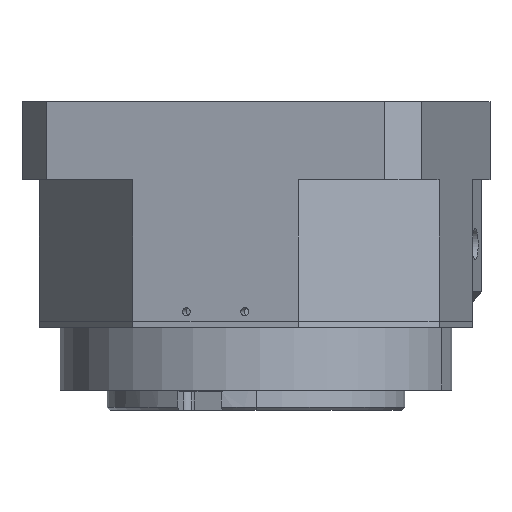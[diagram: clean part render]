
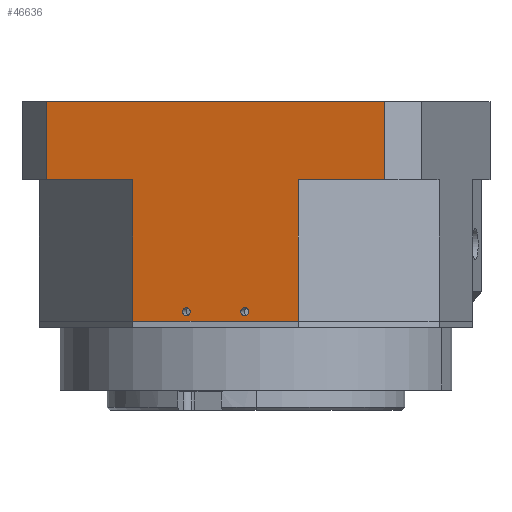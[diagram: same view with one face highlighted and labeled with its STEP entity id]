
A CAD part, left-side view. The second image highlights one B-rep face of the part: STEP entity #46636.
In plain terms, the highlighted planar face has unit normal (-0.98, 0.198, 0) as drawn and (0, 1, 0) by its records, which use the part's own axes.
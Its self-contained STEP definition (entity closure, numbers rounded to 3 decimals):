
#1364 = CARTESIAN_POINT ( 'NONE',  ( 26.924, 66.5, 70. ) ) ;
#1923 = EDGE_CURVE ( 'NONE', #29435, #42534, #42153, .T. ) ;
#2552 = VECTOR ( 'NONE', #33194, 1000. ) ;
#3884 = VERTEX_POINT ( 'NONE', #9012 ) ;
#5197 = DIRECTION ( 'NONE',  ( 0., 1., 0. ) ) ;
#6246 = EDGE_LOOP ( 'NONE', ( #28368, #27574 ) ) ;
#6662 = VECTOR ( 'NONE', #12363, 1000. ) ;
#7108 = EDGE_CURVE ( 'NONE', #47513, #7175, #41632, .T. ) ;
#7175 = VERTEX_POINT ( 'NONE', #33197 ) ;
#7323 = CIRCLE ( 'NONE', #11507, 1.25 ) ;
#7468 = EDGE_CURVE ( 'NONE', #36336, #7175, #43849, .T. ) ;
#7903 = ORIENTED_EDGE ( 'NONE', *, *, #7108, .F. ) ;
#8170 = VECTOR ( 'NONE', #10935, 1000. ) ;
#8234 = ORIENTED_EDGE ( 'NONE', *, *, #7468, .T. ) ;
#8400 = CARTESIAN_POINT ( 'NONE',  ( -65., 66.5, 70. ) ) ;
#8521 = VECTOR ( 'NONE', #25617, 1000. ) ;
#8735 = FACE_BOUND ( 'NONE', #40242, .T. ) ;
#8862 = DIRECTION ( 'NONE',  ( 0., 1., 0. ) ) ;
#9012 = CARTESIAN_POINT ( 'NONE',  ( -9.5, 66.5, 68.25 ) ) ;
#9520 = VERTEX_POINT ( 'NONE', #32083 ) ;
#9763 = CARTESIAN_POINT ( 'NONE',  ( -55., 66.5, 0. ) ) ;
#9810 = EDGE_CURVE ( 'NONE', #22210, #11072, #44827, .T. ) ;
#10349 = ORIENTED_EDGE ( 'NONE', *, *, #11818, .F. ) ;
#10783 = EDGE_LOOP ( 'NONE', ( #8234, #7903, #18307, #14247, #13599, #38364, #23284, #10349 ) ) ;
#10935 = DIRECTION ( 'NONE',  ( 0., 0., -1. ) ) ;
#11072 = VERTEX_POINT ( 'NONE', #40803 ) ;
#11507 = AXIS2_PLACEMENT_3D ( 'NONE', #21633, #47481, #25407 ) ;
#11791 = CARTESIAN_POINT ( 'NONE',  ( 26.924, 66.5, 25. ) ) ;
#11818 = EDGE_CURVE ( 'NONE', #36336, #30353, #30908, .T. ) ;
#12134 = LINE ( 'NONE', #1364, #30819 ) ;
#12363 = DIRECTION ( 'NONE',  ( -1., 0., 0. ) ) ;
#12577 = CARTESIAN_POINT ( 'NONE',  ( -65., 66.5, 25. ) ) ;
#13599 = ORIENTED_EDGE ( 'NONE', *, *, #46391, .F. ) ;
#14247 = ORIENTED_EDGE ( 'NONE', *, *, #9810, .F. ) ;
#14311 = CIRCLE ( 'NONE', #44087, 1.25 ) ;
#14703 = CARTESIAN_POINT ( 'NONE',  ( -26.924, 66.5, 70. ) ) ;
#15173 = EDGE_CURVE ( 'NONE', #30353, #21344, #12134, .T. ) ;
#17613 = EDGE_CURVE ( 'NONE', #11072, #47513, #28262, .T. ) ;
#18119 = CARTESIAN_POINT ( 'NONE',  ( 55., 66.5, 25. ) ) ;
#18189 = EDGE_CURVE ( 'NONE', #42534, #29435, #7323, .T. ) ;
#18307 = ORIENTED_EDGE ( 'NONE', *, *, #17613, .F. ) ;
#18378 = VERTEX_POINT ( 'NONE', #27153 ) ;
#18582 = FACE_OUTER_BOUND ( 'NONE', #10783, .T. ) ;
#18724 = LINE ( 'NONE', #8400, #37324 ) ;
#19495 = CARTESIAN_POINT ( 'NONE',  ( -26.924, 66.5, 25. ) ) ;
#21344 = VERTEX_POINT ( 'NONE', #34332 ) ;
#21633 = CARTESIAN_POINT ( 'NONE',  ( 9.5, 66.5, 67. ) ) ;
#21680 = CARTESIAN_POINT ( 'NONE',  ( -55., 66.5, 70. ) ) ;
#22210 = VERTEX_POINT ( 'NONE', #19495 ) ;
#23284 = ORIENTED_EDGE ( 'NONE', *, *, #15173, .F. ) ;
#23646 = DIRECTION ( 'NONE',  ( 0., 0., -1. ) ) ;
#23706 = CARTESIAN_POINT ( 'NONE',  ( 55., 66.5, 70. ) ) ;
#25407 = DIRECTION ( 'NONE',  ( 0., 0., 1. ) ) ;
#25617 = DIRECTION ( 'NONE',  ( 0., 0., -1. ) ) ;
#25629 = CARTESIAN_POINT ( 'NONE',  ( -65., 66.5, 25. ) ) ;
#27153 = CARTESIAN_POINT ( 'NONE',  ( -26.924, 66.5, 70. ) ) ;
#27374 = CARTESIAN_POINT ( 'NONE',  ( -9.5, 66.5, 67. ) ) ;
#27574 = ORIENTED_EDGE ( 'NONE', *, *, #18189, .F. ) ;
#27928 = LINE ( 'NONE', #14703, #8170 ) ;
#28262 = LINE ( 'NONE', #21680, #8521 ) ;
#28368 = ORIENTED_EDGE ( 'NONE', *, *, #1923, .F. ) ;
#28430 = EDGE_CURVE ( 'NONE', #21344, #18378, #18724, .T. ) ;
#29435 = VERTEX_POINT ( 'NONE', #42510 ) ;
#30353 = VERTEX_POINT ( 'NONE', #11791 ) ;
#30819 = VECTOR ( 'NONE', #34495, 1000. ) ;
#30908 = LINE ( 'NONE', #25629, #2552 ) ;
#31142 = DIRECTION ( 'NONE',  ( 0., 0., 1. ) ) ;
#31148 = CARTESIAN_POINT ( 'NONE',  ( -9.5, 66.5, 67. ) ) ;
#32083 = CARTESIAN_POINT ( 'NONE',  ( -9.5, 66.5, 65.75 ) ) ;
#33194 = DIRECTION ( 'NONE',  ( -1., 0., 0. ) ) ;
#33197 = CARTESIAN_POINT ( 'NONE',  ( 55., 66.5, 0. ) ) ;
#33618 = DIRECTION ( 'NONE',  ( 1., 0., 0. ) ) ;
#33772 = CARTESIAN_POINT ( 'NONE',  ( 0., 66.5, 0. ) ) ;
#34148 = VECTOR ( 'NONE', #23646, 1000. ) ;
#34332 = CARTESIAN_POINT ( 'NONE',  ( 26.924, 66.5, 70. ) ) ;
#34495 = DIRECTION ( 'NONE',  ( 0., 0., 1. ) ) ;
#34898 = DIRECTION ( 'NONE',  ( 0., 0., 1. ) ) ;
#35056 = EDGE_CURVE ( 'NONE', #9520, #3884, #39802, .T. ) ;
#36336 = VERTEX_POINT ( 'NONE', #18119 ) ;
#37056 = VECTOR ( 'NONE', #33618, 1000. ) ;
#37324 = VECTOR ( 'NONE', #38071, 1000. ) ;
#37721 = DIRECTION ( 'NONE',  ( 0., 0., 1. ) ) ;
#37885 = DIRECTION ( 'NONE',  ( 0., 1., 0. ) ) ;
#38071 = DIRECTION ( 'NONE',  ( -1., 0., 0. ) ) ;
#38192 = CARTESIAN_POINT ( 'NONE',  ( 9.5, 66.5, 67. ) ) ;
#38210 = CARTESIAN_POINT ( 'NONE',  ( -65., 66.5, 70. ) ) ;
#38325 = FACE_BOUND ( 'NONE', #6246, .T. ) ;
#38364 = ORIENTED_EDGE ( 'NONE', *, *, #28430, .F. ) ;
#39404 = EDGE_CURVE ( 'NONE', #3884, #9520, #14311, .T. ) ;
#39626 = CARTESIAN_POINT ( 'NONE',  ( 9.5, 66.5, 65.75 ) ) ;
#39802 = CIRCLE ( 'NONE', #47059, 1.25 ) ;
#40172 = DIRECTION ( 'NONE',  ( 0., 0., -1. ) ) ;
#40242 = EDGE_LOOP ( 'NONE', ( #41327, #40296 ) ) ;
#40296 = ORIENTED_EDGE ( 'NONE', *, *, #35056, .F. ) ;
#40803 = CARTESIAN_POINT ( 'NONE',  ( -55., 66.5, 25. ) ) ;
#41327 = ORIENTED_EDGE ( 'NONE', *, *, #39404, .F. ) ;
#41632 = LINE ( 'NONE', #33772, #37056 ) ;
#41887 = DIRECTION ( 'NONE',  ( 0., -1., 0. ) ) ;
#42153 = CIRCLE ( 'NONE', #47245, 1.25 ) ;
#42510 = CARTESIAN_POINT ( 'NONE',  ( 9.5, 66.5, 68.25 ) ) ;
#42534 = VERTEX_POINT ( 'NONE', #39626 ) ;
#42724 = AXIS2_PLACEMENT_3D ( 'NONE', #38210, #41887, #40172 ) ;
#43849 = LINE ( 'NONE', #23706, #34148 ) ;
#44087 = AXIS2_PLACEMENT_3D ( 'NONE', #27374, #5197, #31142 ) ;
#44827 = LINE ( 'NONE', #12577, #6662 ) ;
#45425 = PLANE ( 'NONE',  #42724 ) ;
#46391 = EDGE_CURVE ( 'NONE', #18378, #22210, #27928, .T. ) ;
#46636 = ADVANCED_FACE ( 'NONE', ( #18582, #38325, #8735 ), #45425, .F. ) ;
#47059 = AXIS2_PLACEMENT_3D ( 'NONE', #31148, #8862, #34898 ) ;
#47245 = AXIS2_PLACEMENT_3D ( 'NONE', #38192, #37885, #37721 ) ;
#47481 = DIRECTION ( 'NONE',  ( 0., 1., 0. ) ) ;
#47513 = VERTEX_POINT ( 'NONE', #9763 ) ;
